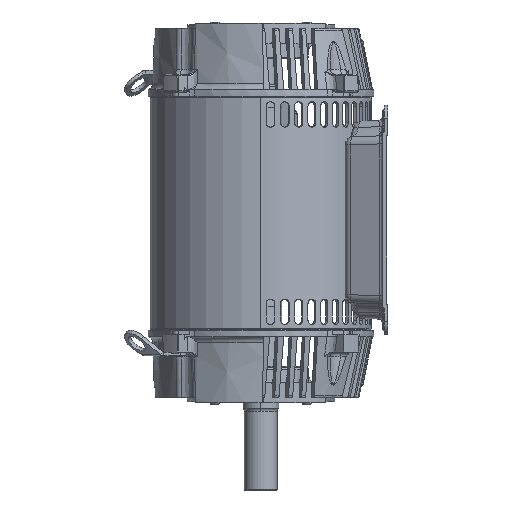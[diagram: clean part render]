
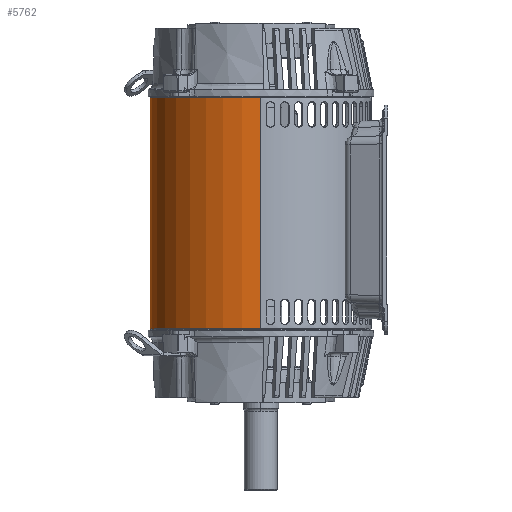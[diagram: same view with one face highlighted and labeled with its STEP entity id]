
A CAD part, left-side view. The second image highlights one B-rep face of the part: STEP entity #5762.
In plain terms, the highlighted cylindrical face has radius 137.922 mm (diameter 275.844 mm), a partial arc.
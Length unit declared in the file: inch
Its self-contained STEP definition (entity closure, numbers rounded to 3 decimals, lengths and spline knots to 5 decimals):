
#1630=DIRECTION('',(0.,0.,1.));
#1631=VECTOR('',#1630,1.074);
#1632=CARTESIAN_POINT('',(-5.43,0.,-5.671));
#1633=LINE('',#1632,#1631);
#1666=DIRECTION('',(0.,0.,1.));
#1667=VECTOR('',#1666,7.018);
#1668=CARTESIAN_POINT('',(-5.43,0.,-1.347));
#1669=LINE('',#1668,#1667);
#3247=CARTESIAN_POINT('',(-5.28417,1.25,-3.5165));
#3248=CARTESIAN_POINT('',(-5.28104,1.26322,-3.5165));
#3249=CARTESIAN_POINT('',(-5.27509,1.28795,
-3.51204));
#3250=CARTESIAN_POINT('',(-5.26661,1.32213,
-3.49246));
#3251=CARTESIAN_POINT('',(-5.2603,1.34693,
-3.46251));
#3252=CARTESIAN_POINT('',(-5.25694,1.35996,
-3.42658));
#3253=CARTESIAN_POINT('',(-5.2569,1.36012,
-3.38813));
#3254=CARTESIAN_POINT('',(-5.26025,1.34714,
-3.35191));
#3255=CARTESIAN_POINT('',(-5.26644,1.32282,
-3.32213));
#3256=CARTESIAN_POINT('',(-5.275,1.28831,
-3.30202));
#3257=CARTESIAN_POINT('',(-5.281,1.26336,-3.2975));
#3258=CARTESIAN_POINT('',(-5.28417,1.25,-3.2975));
#3260=CARTESIAN_POINT('',(-5.28417,1.25,-3.2975));
#3261=CARTESIAN_POINT('',(-5.28728,1.23681,-3.2975));
#3262=CARTESIAN_POINT('',(-5.29303,1.21211,
-3.30195));
#3263=CARTESIAN_POINT('',(-5.30071,1.178,
-3.32144));
#3264=CARTESIAN_POINT('',(-5.30615,1.15315,
-3.35135));
#3265=CARTESIAN_POINT('',(-5.30897,1.14004,
-3.38736));
#3266=CARTESIAN_POINT('',(-5.30901,1.13988,
-3.42595));
#3267=CARTESIAN_POINT('',(-5.3062,1.15294,
-3.46225));
#3268=CARTESIAN_POINT('',(-5.30086,1.17733,
-3.49199));
#3269=CARTESIAN_POINT('',(-5.2931,1.2118,
-3.51201));
#3270=CARTESIAN_POINT('',(-5.28732,1.23668,-3.5165));
#3271=CARTESIAN_POINT('',(-5.28417,1.25,-3.5165));
#3273=CARTESIAN_POINT('',(0.,0.,-5.671));
#3274=DIRECTION('',(0.,0.,-1.));
#3275=DIRECTION('',(-1.,0.,0.));
#3276=AXIS2_PLACEMENT_3D('',#3273,#3274,#3275);
#3278=DIRECTION('',(0.,0.,1.));
#3279=VECTOR('',#3278,11.342);
#3280=CARTESIAN_POINT('',(5.43,0.,-5.671));
#3281=LINE('',#3280,#3279);
#3282=CARTESIAN_POINT('',(0.,0.,5.671));
#3283=DIRECTION('',(0.,0.,1.));
#3284=DIRECTION('',(1.,0.,0.));
#3285=AXIS2_PLACEMENT_3D('',#3282,#3283,#3284);
#3287=CARTESIAN_POINT('',(0.,0.,-1.347));
#3288=DIRECTION('',(0.,0.,1.));
#3289=DIRECTION('',(-0.993,0.114,0.));
#3290=AXIS2_PLACEMENT_3D('',#3287,#3288,#3289);
#3292=CARTESIAN_POINT('',(-5.37796,0.75,-1.477));
#3293=CARTESIAN_POINT('',(-5.37796,0.75,-1.46315));
#3294=CARTESIAN_POINT('',(-5.37854,0.74581,
-1.43684));
#3295=CARTESIAN_POINT('',(-5.38109,0.72731,
-1.39982));
#3296=CARTESIAN_POINT('',(-5.38497,0.6981,
-1.37033));
#3297=CARTESIAN_POINT('',(-5.38969,0.6608,
-1.35134));
#3298=CARTESIAN_POINT('',(-5.39287,0.63411,-1.347));
#3299=CARTESIAN_POINT('',(-5.39449,0.62,-1.347));
#3301=DIRECTION('',(0.,0.,1.));
#3302=VECTOR('',#3301,2.99);
#3303=CARTESIAN_POINT('',(-5.37796,0.75,-4.467));
#3304=LINE('',#3303,#3302);
#3305=CARTESIAN_POINT('',(-5.39449,0.62,-4.597));
#3306=CARTESIAN_POINT('',(-5.39288,0.63397,-4.597));
#3307=CARTESIAN_POINT('',(-5.38973,0.66046,
-4.59274));
#3308=CARTESIAN_POINT('',(-5.38504,0.69761,
-4.57401));
#3309=CARTESIAN_POINT('',(-5.38113,0.72698,
-4.54466));
#3310=CARTESIAN_POINT('',(-5.37855,0.74574,
-4.50748));
#3311=CARTESIAN_POINT('',(-5.37796,0.75,-4.48098));
#3312=CARTESIAN_POINT('',(-5.37796,0.75,-4.467));
#3314=CARTESIAN_POINT('',(0.,0.,-4.597));
#3315=DIRECTION('',(0.,0.,1.));
#3316=DIRECTION('',(-0.993,0.114,0.));
#3317=AXIS2_PLACEMENT_3D('',#3314,#3315,#3316);
#4181=VERTEX_POINT('',#3247);
#4182=VERTEX_POINT('',#3258);
#4183=CARTESIAN_POINT('',(-5.39449,0.62,-1.347));
#4184=CARTESIAN_POINT('',(-5.43,0.,-1.347));
#4185=VERTEX_POINT('',#4183);
#4186=VERTEX_POINT('',#4184);
#4187=CARTESIAN_POINT('',(-5.39449,0.62,-4.597));
#4188=CARTESIAN_POINT('',(-5.43,0.,-4.597));
#4189=VERTEX_POINT('',#4187);
#4190=VERTEX_POINT('',#4188);
#4191=VERTEX_POINT('',#3312);
#4192=CARTESIAN_POINT('',(-5.37796,0.75,-1.477));
#4193=VERTEX_POINT('',#4192);
#4231=CARTESIAN_POINT('',(-5.43,0.,-5.671));
#4232=CARTESIAN_POINT('',(5.43,0.,-5.671));
#4233=VERTEX_POINT('',#4231);
#4234=VERTEX_POINT('',#4232);
#4235=CARTESIAN_POINT('',(5.43,0.,5.671));
#4236=VERTEX_POINT('',#4235);
#4261=CARTESIAN_POINT('',(-5.43,0.,5.671));
#4262=VERTEX_POINT('',#4261);
#5733=CARTESIAN_POINT('',(0.,0.,-5.875));
#5734=DIRECTION('',(0.,0.,1.));
#5735=DIRECTION('',(1.,0.,0.));
#5736=AXIS2_PLACEMENT_3D('',#5733,#5734,#5735);
#5737=CYLINDRICAL_SURFACE('',#5736,5.43);
#5738=ORIENTED_EDGE('',*,*,#5639,.T.);
#5739=ORIENTED_EDGE('',*,*,#5192,.T.);
#5741=ORIENTED_EDGE('',*,*,#5740,.T.);
#5742=ORIENTED_EDGE('',*,*,#5188,.F.);
#5744=ORIENTED_EDGE('',*,*,#5743,.F.);
#5746=ORIENTED_EDGE('',*,*,#5745,.F.);
#5748=ORIENTED_EDGE('',*,*,#5747,.F.);
#5750=ORIENTED_EDGE('',*,*,#5749,.F.);
#5752=ORIENTED_EDGE('',*,*,#5751,.T.);
#5753=ORIENTED_EDGE('',*,*,#5176,.F.);
#5754=EDGE_LOOP('',(#5738,#5739,#5741,#5742,#5744,#5746,#5748,#5750,#5752,
#5753));
#5755=FACE_OUTER_BOUND('',#5754,.F.);
#5757=ORIENTED_EDGE('',*,*,#5756,.F.);
#5759=ORIENTED_EDGE('',*,*,#5758,.F.);
#5760=EDGE_LOOP('',(#5757,#5759));
#5761=FACE_BOUND('',#5760,.F.);
#5762=ADVANCED_FACE('',(#5755,#5761),#5737,.T.);
#3259=B_SPLINE_CURVE_WITH_KNOTS('',3,(#3247,#3248,#3249,#3250,#3251,#3252,#3253,
#3254,#3255,#3256,#3257,#3258),.UNSPECIFIED.,.F.,.F.,(4,1,1,1,1,1,1,1,1,4),
(0.,0.11111,0.22222,0.33333,0.44444,
0.55556,0.66667,0.77778,0.88889,1.),
.UNSPECIFIED.);
#3272=B_SPLINE_CURVE_WITH_KNOTS('',3,(#3260,#3261,#3262,#3263,#3264,#3265,#3266,
#3267,#3268,#3269,#3270,#3271),.UNSPECIFIED.,.F.,.F.,(4,1,1,1,1,1,1,1,1,4),
(0.,0.11111,0.22222,0.33333,0.44444,
0.55556,0.66667,0.77778,0.88889,1.),
.UNSPECIFIED.);
#3277=CIRCLE('',#3276,5.43);
#3286=CIRCLE('',#3285,5.43);
#3291=CIRCLE('',#3290,5.43);
#3300=B_SPLINE_CURVE_WITH_KNOTS('',3,(#3292,#3293,#3294,#3295,#3296,#3297,#3298,
#3299),.UNSPECIFIED.,.F.,.F.,(4,1,1,1,1,4),(0.,0.2,0.4,0.6,0.8,1.),
.UNSPECIFIED.);
#3313=B_SPLINE_CURVE_WITH_KNOTS('',3,(#3305,#3306,#3307,#3308,#3309,#3310,#3311,
#3312),.UNSPECIFIED.,.F.,.F.,(4,1,1,1,1,4),(0.,0.2,0.4,0.6,0.8,1.),
.UNSPECIFIED.);
#3318=CIRCLE('',#3317,5.43);
#5176=EDGE_CURVE('',#4233,#4190,#1633,.T.);
#5188=EDGE_CURVE('',#4186,#4262,#1669,.T.);
#5192=EDGE_CURVE('',#4234,#4236,#3281,.T.);
#5639=EDGE_CURVE('',#4233,#4234,#3277,.T.);
#5740=EDGE_CURVE('',#4236,#4262,#3286,.T.);
#5743=EDGE_CURVE('',#4185,#4186,#3291,.T.);
#5745=EDGE_CURVE('',#4193,#4185,#3300,.T.);
#5747=EDGE_CURVE('',#4191,#4193,#3304,.T.);
#5749=EDGE_CURVE('',#4189,#4191,#3313,.T.);
#5751=EDGE_CURVE('',#4189,#4190,#3318,.T.);
#5756=EDGE_CURVE('',#4181,#4182,#3259,.T.);
#5758=EDGE_CURVE('',#4182,#4181,#3272,.T.);
